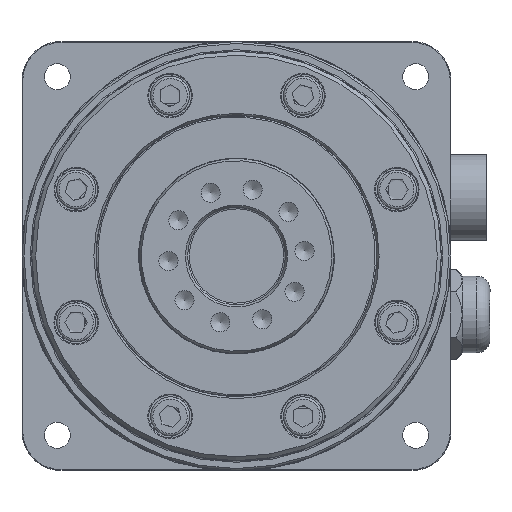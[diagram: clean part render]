
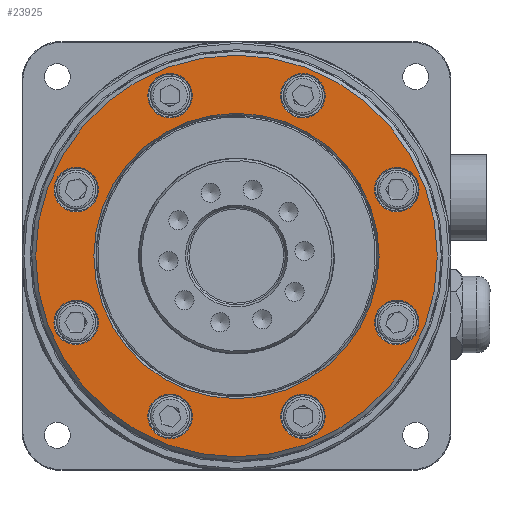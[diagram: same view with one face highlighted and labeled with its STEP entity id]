
A CAD part, left-side view. The second image highlights one B-rep face of the part: STEP entity #23925.
In plain terms, the highlighted planar face has unit normal (-1, 0, 0).
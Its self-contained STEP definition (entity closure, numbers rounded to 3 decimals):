
#435=FACE_BOUND('',#4618,.T.);
#436=FACE_BOUND('',#4619,.T.);
#437=FACE_BOUND('',#4620,.T.);
#438=FACE_BOUND('',#4621,.T.);
#439=FACE_BOUND('',#4622,.T.);
#440=FACE_BOUND('',#4623,.T.);
#441=FACE_BOUND('',#4624,.T.);
#442=FACE_BOUND('',#4625,.T.);
#443=FACE_BOUND('',#4626,.T.);
#2491=PLANE('',#25663);
#3180=FACE_OUTER_BOUND('',#4617,.T.);
#4617=EDGE_LOOP('',(#17394));
#4618=EDGE_LOOP('',(#17395));
#4619=EDGE_LOOP('',(#17396));
#4620=EDGE_LOOP('',(#17397));
#4621=EDGE_LOOP('',(#17398));
#4622=EDGE_LOOP('',(#17399));
#4623=EDGE_LOOP('',(#17400));
#4624=EDGE_LOOP('',(#17401));
#4625=EDGE_LOOP('',(#17402));
#4626=EDGE_LOOP('',(#17403));
#6138=CIRCLE('',#25618,5.7);
#6141=CIRCLE('',#25623,5.7);
#6144=CIRCLE('',#25628,5.7);
#6147=CIRCLE('',#25633,5.7);
#6150=CIRCLE('',#25638,5.7);
#6153=CIRCLE('',#25643,5.7);
#6157=CIRCLE('',#25649,5.7);
#6160=CIRCLE('',#25654,5.7);
#6162=CIRCLE('',#25657,36.577);
#6167=CIRCLE('',#25664,51.5);
#10722=VERTEX_POINT('',#37504);
#10725=VERTEX_POINT('',#37514);
#10728=VERTEX_POINT('',#37524);
#10731=VERTEX_POINT('',#37534);
#10734=VERTEX_POINT('',#37544);
#10737=VERTEX_POINT('',#37554);
#10740=VERTEX_POINT('',#37565);
#10743=VERTEX_POINT('',#37575);
#10746=VERTEX_POINT('',#37582);
#10750=VERTEX_POINT('',#37595);
#13169=EDGE_CURVE('',#10722,#10722,#6138,.T.);
#13174=EDGE_CURVE('',#10725,#10725,#6141,.T.);
#13179=EDGE_CURVE('',#10728,#10728,#6144,.T.);
#13184=EDGE_CURVE('',#10731,#10731,#6147,.T.);
#13189=EDGE_CURVE('',#10734,#10734,#6150,.T.);
#13194=EDGE_CURVE('',#10737,#10737,#6153,.T.);
#13200=EDGE_CURVE('',#10740,#10740,#6157,.T.);
#13205=EDGE_CURVE('',#10743,#10743,#6160,.T.);
#13208=EDGE_CURVE('',#10746,#10746,#6162,.T.);
#13214=EDGE_CURVE('',#10750,#10750,#6167,.T.);
#17394=ORIENTED_EDGE('',*,*,#13214,.F.);
#17395=ORIENTED_EDGE('',*,*,#13208,.F.);
#17396=ORIENTED_EDGE('',*,*,#13200,.F.);
#17397=ORIENTED_EDGE('',*,*,#13189,.F.);
#17398=ORIENTED_EDGE('',*,*,#13179,.F.);
#17399=ORIENTED_EDGE('',*,*,#13169,.F.);
#17400=ORIENTED_EDGE('',*,*,#13174,.F.);
#17401=ORIENTED_EDGE('',*,*,#13184,.F.);
#17402=ORIENTED_EDGE('',*,*,#13194,.F.);
#17403=ORIENTED_EDGE('',*,*,#13205,.F.);
#23925=ADVANCED_FACE('',(#3180,#435,#436,#437,#438,#439,#440,#441,#442,
#443),#2491,.T.);
#25618=AXIS2_PLACEMENT_3D('',#37506,#28867,#28868);
#25623=AXIS2_PLACEMENT_3D('',#37516,#28879,#28880);
#25628=AXIS2_PLACEMENT_3D('',#37526,#28891,#28892);
#25633=AXIS2_PLACEMENT_3D('',#37536,#28903,#28904);
#25638=AXIS2_PLACEMENT_3D('',#37546,#28915,#28916);
#25643=AXIS2_PLACEMENT_3D('',#37556,#28927,#28928);
#25649=AXIS2_PLACEMENT_3D('',#37567,#28941,#28942);
#25654=AXIS2_PLACEMENT_3D('',#37577,#28953,#28954);
#25657=AXIS2_PLACEMENT_3D('',#37584,#28960,#28961);
#25663=AXIS2_PLACEMENT_3D('',#37594,#28973,#28974);
#25664=AXIS2_PLACEMENT_3D('',#37596,#28975,#28976);
#28867=DIRECTION('center_axis',(-1.,0.,0.));
#28868=DIRECTION('ref_axis',(0.,-1.,0.));
#28879=DIRECTION('center_axis',(-1.,0.,0.));
#28880=DIRECTION('ref_axis',(0.,-0.707,0.707));
#28891=DIRECTION('center_axis',(-1.,0.,0.));
#28892=DIRECTION('ref_axis',(0.,0.,
1.));
#28903=DIRECTION('center_axis',(-1.,0.,0.));
#28904=DIRECTION('ref_axis',(0.,0.707,0.707));
#28915=DIRECTION('center_axis',(-1.,0.,0.));
#28916=DIRECTION('ref_axis',(0.,1.,0.));
#28927=DIRECTION('center_axis',(-1.,0.,0.));
#28928=DIRECTION('ref_axis',(0.,0.707,-0.707));
#28941=DIRECTION('center_axis',(-1.,0.,0.));
#28942=DIRECTION('ref_axis',(0.,0.,
-1.));
#28953=DIRECTION('center_axis',(-1.,0.,0.));
#28954=DIRECTION('ref_axis',(0.,-0.707,-0.707));
#28960=DIRECTION('center_axis',(-1.,0.,0.));
#28961=DIRECTION('ref_axis',(0.,0.,
1.));
#28973=DIRECTION('center_axis',(-1.,0.,0.));
#28974=DIRECTION('ref_axis',(0.,1.,0.));
#28975=DIRECTION('center_axis',(1.,0.,0.));
#28976=DIRECTION('ref_axis',(0.,0.,
1.));
#37504=CARTESIAN_POINT('',(-29.5,-11.329,-41.113));
#37506=CARTESIAN_POINT('Origin',(-29.5,-17.029,-41.113));
#37514=CARTESIAN_POINT('',(-29.5,-37.082,-21.06));
#37516=CARTESIAN_POINT('Origin',(-29.5,-41.113,-17.029));
#37524=CARTESIAN_POINT('',(-29.5,-41.113,11.329));
#37526=CARTESIAN_POINT('Origin',(-29.5,-41.113,17.029));
#37534=CARTESIAN_POINT('',(-29.5,-21.06,37.082));
#37536=CARTESIAN_POINT('Origin',(-29.5,-17.029,41.113));
#37544=CARTESIAN_POINT('',(-29.5,11.329,41.113));
#37546=CARTESIAN_POINT('Origin',(-29.5,17.029,41.113));
#37554=CARTESIAN_POINT('',(-29.5,37.082,21.06));
#37556=CARTESIAN_POINT('Origin',(-29.5,41.113,17.029));
#37565=CARTESIAN_POINT('',(-29.5,41.113,-11.329));
#37567=CARTESIAN_POINT('Origin',(-29.5,41.113,-17.029));
#37575=CARTESIAN_POINT('',(-29.5,21.06,-37.082));
#37577=CARTESIAN_POINT('Origin',(-29.5,17.029,-41.113));
#37582=CARTESIAN_POINT('',(-29.5,0.,-36.577));
#37584=CARTESIAN_POINT('Origin',(-29.5,0.,0.));
#37594=CARTESIAN_POINT('Origin',(-29.5,0.,-52.5));
#37595=CARTESIAN_POINT('',(-29.5,0.,-51.5));
#37596=CARTESIAN_POINT('Origin',(-29.5,0.,0.));
